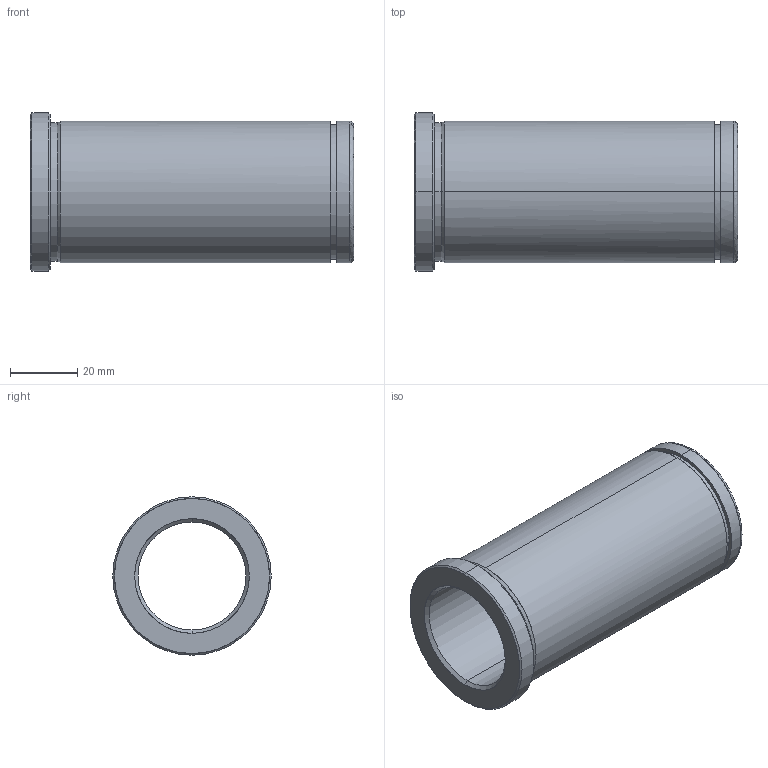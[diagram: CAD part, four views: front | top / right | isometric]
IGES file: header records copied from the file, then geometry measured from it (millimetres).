
Start section: START RECORD GO HERE.
Global section: file name: 553-32X96.igs; native system: DASSAULT SYSTEMES CATIA V5 R20 - www.3ds.com; preprocessor: CATIA Version 5 Release 20 ; author: Utente; organization: NB04-ASUS; date: 20210526.204305; units: millimetre
Bounding box: 96 x 47 x 47 mm (x, y, z)
Surface area: 24276.1 mm2 (no closed solid volume)
Topology: 0 solids, 0 shells, 29 faces, 184 edges, 184 vertices
Faces by surface type: revolution 24, plane 5
